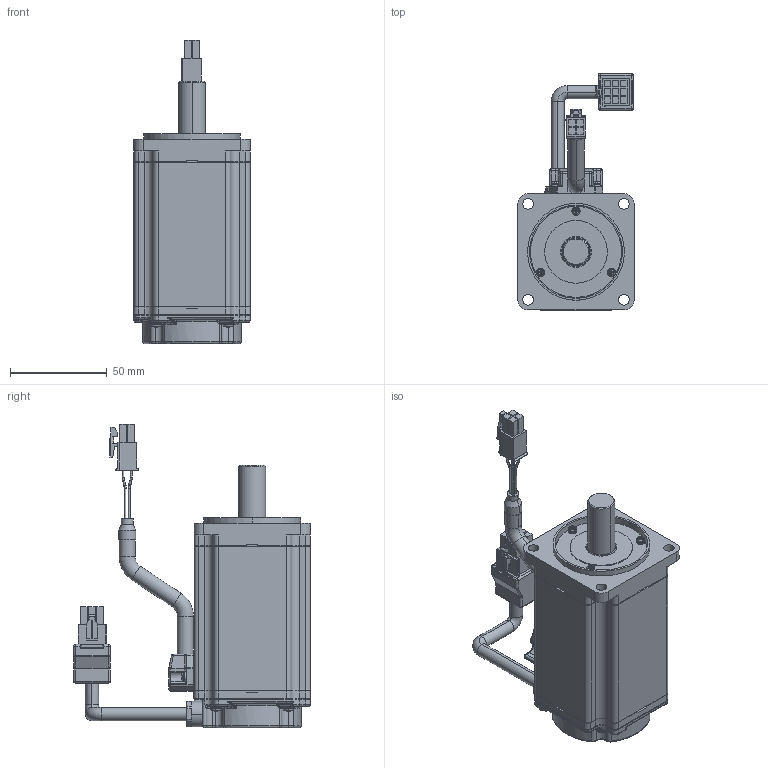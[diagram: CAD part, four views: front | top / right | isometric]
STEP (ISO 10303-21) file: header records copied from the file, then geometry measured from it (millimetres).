
FILE_DESCRIPTION((''),'2;1');
FILE_NAME('YM453350_2_A_ASM','2007-08-21T',('servo'),(''),'PRO/ENGINEER BY PARAMETRIC TECHNOLOGY CORPORATION, 2006510','PRO/ENGINEER BY PARAMETRIC TECHNOLOGY CORPORATION, 2006510','');
FILE_SCHEMA(('CONFIG_CONTROL_DESIGN'));
Length unit declared in the file: millimetre
Products named in the file (16): YM451591_2_A; YM422875_1_F; YM451325_1_A; YM541445_1_; YM452433_1_A; YM523825_2_B; YM451834_1_C; YM435982_1_B; YM435981_1_B; YM453438_1_B; YM541756_1; YM453149_1_B; YM541420_1_D; YM541420_3_D; NJ2_6X8; YM453350_2_A_ASM
Assembly tree (21 placements, depth 2):
  YM453350_2_A_ASM
    YM451591_2_A
    YM422875_1_F
    YM451325_1_A
    YM541445_1_
    YM452433_1_A
    YM523825_2_B
    YM451834_1_C
    YM435982_1_B
    YM435981_1_B
    YM453438_1_B
    YM541756_1
    YM453149_1_B
    YM541420_1_D  x3
    YM541420_3_D  x4
    NJ2_6X8  x2
Bounding box: 60.2 x 122.3 x 156.6 mm (x, y, z)
Volume: 323291.7 mm3; surface area: 91493.8 mm2
Topology: 21 solids, 21 shells, 1318 faces, 3237 edges, 2026 vertices
Faces by surface type: plane 535, cylinder 477, torus 146, sphere 63, bspline 61, cone 36
Entity records: 37242 total; most frequent: CARTESIAN_POINT 8988, DIRECTION 6154, ORIENTED_EDGE 5676, EDGE_CURVE 2838, AXIS2_PLACEMENT_3D 2355, VERTEX_POINT 1766, VECTOR 1444, LINE 1444
